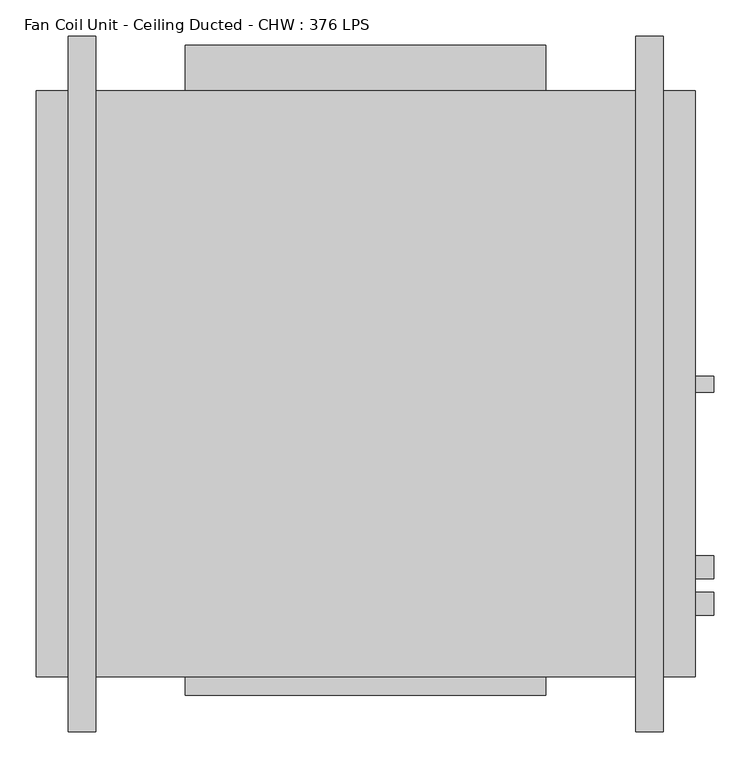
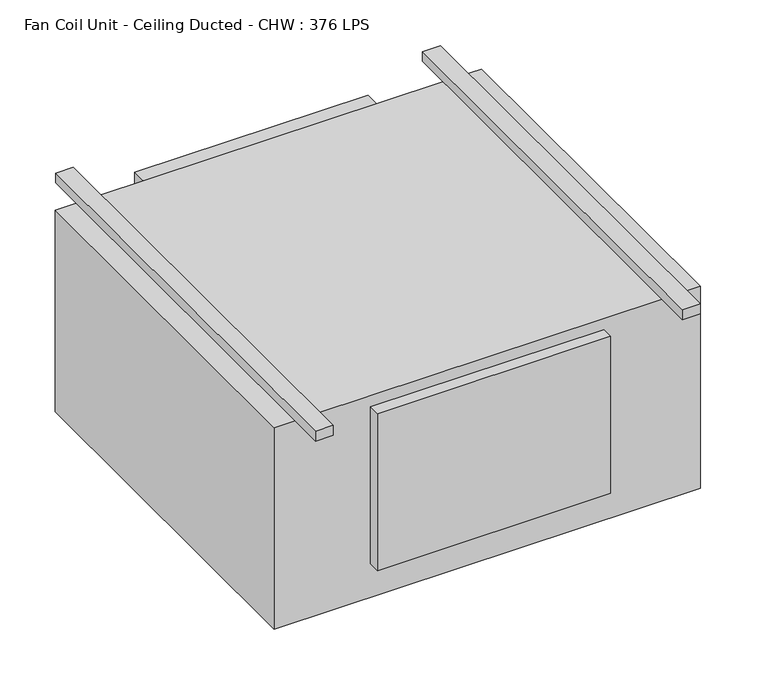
"""IFC4 building model written with IfcOpenShell, lengths in millimetres: proxy geometry, Fan Coil Unit - Ceiling Ducted - CHW : 376 LPS."""

from ifc_helpers import new_model, si_unit, frame, origin, place, context, project, spatial, circle_curve, source, transform, mapped, element, save
from ifc_brep_helpers import plane_surface, cylinder_surface, advanced_brep


def fan_coil_unit_ceiling_ducted_chw_376_lps_233c1d69(model_context):
    return source(origin(), model_context, "Body", "AdvancedBrep", [
        advanced_brep(
        [(82.55, 889.0, 479.425), (44.45, 889.0, 479.425), (44.45, -76.2, 479.425), (82.55, -76.2, 479.425), (82.55, -76.2, 457.2), (44.45, -76.2, 457.2), (44.45, 0.0, 457.2), (82.55, 0.0, 457.2), (44.45, 889.0, 457.2), (82.55, 889.0, 457.2), (82.55, 812.8, 457.2), (44.45, 812.8, 457.2), (869.95, 889.0, 479.425), (831.85, 889.0, 479.425), (831.85, -76.2, 479.425), (869.95, -76.2, 479.425), (869.95, -76.2, 457.2), (831.85, -76.2, 457.2), (831.85, 0.0, 457.2), (869.95, 0.0, 457.2), (831.85, 889.0, 457.2), (869.95, 889.0, 457.2), (869.95, 812.8, 457.2), (831.85, 812.8, 457.2), (939.8, 136.4, 381.0), (939.8, 168.4, 381.0), (914.4, 136.4, 381.0), (914.4, 168.4, 381.0), (939.8, 85.6, 101.6), (939.8, 117.6, 101.6), (914.4, 85.6, 101.6), (914.4, 117.6, 101.6), (939.8, 395.2875, 38.1), (939.8, 417.5125, 38.1), (914.4, 395.2875, 38.1), (914.4, 417.5125, 38.1), (0.0, 812.8, 457.2), (0.0, 0.0, 457.2), (914.4, 0.0, 457.2), (914.4, 812.8, 457.2), (914.4, 812.8, 0.0), (914.4, 0.0, 0.0), (0.0, 0.0, 0.0), (0.0, 812.8, 0.0), (707.2, 812.8, 431.8), (207.2, 812.8, 431.8), (207.2, 812.8, 76.2), (707.2, 812.8, 76.2), (207.2, 0.0, 431.8), (707.2, 0.0, 431.8), (707.2, 0.0, 76.2), (207.2, 0.0, 76.2), (707.2, 876.3, 431.8), (207.2, 876.3, 431.8), (707.2, 876.3, 76.2), (207.2, 876.3, 76.2), (207.2, -25.4, 431.8), (707.2, -25.4, 431.8), (707.2, -25.4, 76.2), (207.2, -25.4, 76.2)],
        [
            (0, 1),
            (1, 2),
            (2, 3),
            (3, 0),
            (4, 5),
            (5, 6),
            (6, 7),
            (7, 4),
            (8, 9),
            (9, 10),
            (10, 11),
            (11, 8),
            (0, 9),
            (8, 1),
            (11, 6),
            (5, 2),
            (4, 3),
            (7, 10),
            (12, 13),
            (13, 14),
            (14, 15),
            (15, 12),
            (16, 17),
            (17, 18),
            (18, 19),
            (19, 16),
            (20, 21),
            (21, 22),
            (22, 23),
            (23, 20),
            (12, 21),
            (20, 13),
            (23, 18),
            (17, 14),
            (16, 15),
            (19, 22),
            (24, 25, circle_curve(frame((939.8, 152.4, 381.0), z_axis=(1.0, 0.0, 0.0), x_axis=(0.0, 1.0, 0.0)), 16.0)),
            (25, 24, circle_curve(frame((939.8, 152.4, 381.0), z_axis=(1.0, 0.0, 0.0), x_axis=(0.0, 1.0, 0.0)), 16.0)),
            (24, 26),
            (26, 27, circle_curve(frame((914.4, 152.4, 381.0), z_axis=(1.0, 0.0, 0.0), x_axis=(0.0, 1.0, 0.0)), 16.0)),
            (27, 25),
            (27, 26, circle_curve(frame((914.4, 152.4, 381.0), z_axis=(1.0, 0.0, 0.0), x_axis=(0.0, 1.0, 0.0)), 16.0)),
            (28, 29, circle_curve(frame((939.8, 101.6, 101.6), z_axis=(1.0, 0.0, 0.0), x_axis=(0.0, 1.0, 0.0)), 16.0)),
            (29, 28, circle_curve(frame((939.8, 101.6, 101.6), z_axis=(1.0, 0.0, 0.0), x_axis=(0.0, 1.0, 0.0)), 16.0)),
            (28, 30),
            (30, 31, circle_curve(frame((914.4, 101.6, 101.6), z_axis=(1.0, 0.0, 0.0), x_axis=(0.0, 1.0, 0.0)), 16.0)),
            (31, 29),
            (31, 30, circle_curve(frame((914.4, 101.6, 101.6), z_axis=(1.0, 0.0, 0.0), x_axis=(0.0, 1.0, 0.0)), 16.0)),
            (32, 33, circle_curve(frame((939.8, 406.4, 38.1), z_axis=(1.0, 0.0, 0.0), x_axis=(0.0, 1.0, 0.0)), 11.1125)),
            (33, 32, circle_curve(frame((939.8, 406.4, 38.1), z_axis=(1.0, 0.0, 0.0), x_axis=(0.0, 1.0, 0.0)), 11.1125)),
            (32, 34),
            (34, 35, circle_curve(frame((914.4, 406.4, 38.1), z_axis=(1.0, 0.0, 0.0), x_axis=(0.0, 1.0, 0.0)), 11.1125)),
            (35, 33),
            (35, 34, circle_curve(frame((914.4, 406.4, 38.1), z_axis=(1.0, 0.0, 0.0), x_axis=(0.0, 1.0, 0.0)), 11.1125)),
            (36, 37),
            (37, 6),
            (11, 36),
            (38, 39),
            (39, 22),
            (19, 38),
            (23, 10),
            (7, 18),
            (40, 41),
            (41, 42),
            (42, 43),
            (43, 40),
            (43, 36),
            (39, 40),
            (44, 45),
            (45, 46),
            (46, 47),
            (47, 44),
            (42, 37),
            (41, 38),
            (48, 49),
            (49, 50),
            (50, 51),
            (51, 48),
            (52, 53),
            (53, 45),
            (44, 52),
            (54, 47),
            (46, 55),
            (55, 54),
            (52, 54),
            (55, 53),
            (48, 56),
            (56, 57),
            (57, 49),
            (50, 58),
            (58, 59),
            (59, 51),
            (59, 56),
            (58, 57),
        ],
        [
            plane_surface(frame((44.45, 889.0, 479.425), z_axis=(0.0, 0.0, 1.0), x_axis=(-1.0, 0.0, 0.0))),
            plane_surface(frame((44.45, 889.0, 457.2), z_axis=(0.0, 0.0, -1.0), x_axis=(1.0, 0.0, 0.0))),
            plane_surface(frame((82.55, 889.0, 479.425), z_axis=(0.0, 1.0, 0.0), x_axis=(0.0, 0.0, -1.0))),
            plane_surface(frame((44.45, 889.0, 479.425), z_axis=(-1.0, 0.0, 0.0), x_axis=(0.0, 0.0, -1.0))),
            plane_surface(frame((44.45, -76.2, 479.425), z_axis=(0.0, -1.0, 0.0), x_axis=(0.0, 0.0, -1.0))),
            plane_surface(frame((82.55, -76.2, 479.425), z_axis=(1.0, 0.0, 0.0), x_axis=(0.0, 0.0, -1.0))),
            plane_surface(frame((831.85, 889.0, 479.425), z_axis=(0.0, 0.0, 1.0), x_axis=(-1.0, 0.0, 0.0))),
            plane_surface(frame((831.85, 889.0, 457.2), z_axis=(0.0, 0.0, -1.0), x_axis=(1.0, 0.0, 0.0))),
            plane_surface(frame((869.95, 889.0, 479.425), z_axis=(0.0, 1.0, 0.0), x_axis=(0.0, 0.0, -1.0))),
            plane_surface(frame((831.85, 889.0, 479.425), z_axis=(-1.0, 0.0, 0.0), x_axis=(0.0, 0.0, -1.0))),
            plane_surface(frame((831.85, -76.2, 479.425), z_axis=(0.0, -1.0, 0.0), x_axis=(0.0, 0.0, -1.0))),
            plane_surface(frame((869.95, -76.2, 479.425), z_axis=(1.0, 0.0, 0.0), x_axis=(0.0, 0.0, -1.0))),
            plane_surface(frame((939.8, 168.4, 381.0), z_axis=(1.0, 0.0, 0.0), x_axis=(0.0, 0.0, 1.0))),
            cylinder_surface(frame((914.4, 152.4, 381.0), z_axis=(1.0, 0.0, 0.0), x_axis=(0.0, 1.0, 0.0)), 16.0),
            plane_surface(frame((939.8, 117.6, 101.6), z_axis=(1.0, 0.0, 0.0), x_axis=(0.0, 0.0, 1.0))),
            cylinder_surface(frame((914.4, 101.6, 101.6), z_axis=(1.0, 0.0, 0.0), x_axis=(0.0, 1.0, 0.0)), 16.0),
            plane_surface(frame((939.8, 417.5125, 38.1), z_axis=(1.0, 0.0, 0.0), x_axis=(0.0, 0.0, 1.0))),
            cylinder_surface(frame((914.4, 406.4, 38.1), z_axis=(1.0, 0.0, 0.0), x_axis=(0.0, 1.0, 0.0)), 11.1125),
            plane_surface(frame((0.0, 812.8, 457.2), z_axis=(0.0, 0.0, 1.0), x_axis=(-1.0, 0.0, 0.0))),
            plane_surface(frame((0.0, 812.8, 0.0), z_axis=(0.0, 0.0, -1.0), x_axis=(1.0, 0.0, 0.0))),
            plane_surface(frame((914.4, 812.8, 457.2), z_axis=(0.0, 1.0, 0.0), x_axis=(0.0, 0.0, -1.0))),
            plane_surface(frame((0.0, 812.8, 457.2), z_axis=(-1.0, 0.0, 0.0), x_axis=(0.0, 0.0, -1.0))),
            plane_surface(frame((0.0, 0.0, 457.2), z_axis=(0.0, -1.0, 0.0), x_axis=(0.0, 0.0, -1.0))),
            plane_surface(frame((914.4, 0.0, 457.2), z_axis=(1.0, 0.0, 0.0), x_axis=(0.0, 0.0, -1.0))),
            plane_surface(frame((207.2, 876.3, 431.8), z_axis=(0.0, 0.0, 1.0), x_axis=(-1.0, 0.0, 0.0))),
            plane_surface(frame((207.2, 876.3, 76.2), z_axis=(0.0, 0.0, -1.0), x_axis=(1.0, 0.0, 0.0))),
            plane_surface(frame((707.2, 876.3, 431.8), z_axis=(0.0, 1.0, 0.0), x_axis=(0.0, 0.0, -1.0))),
            plane_surface(frame((207.2, 876.3, 431.8), z_axis=(-1.0, 0.0, 0.0), x_axis=(0.0, 0.0, -1.0))),
            plane_surface(frame((707.2, 812.8, 431.8), z_axis=(1.0, 0.0, 0.0), x_axis=(0.0, 0.0, -1.0))),
            plane_surface(frame((207.2, 0.0, 431.8), z_axis=(0.0, 0.0, 1.0), x_axis=(-1.0, 0.0, 0.0))),
            plane_surface(frame((207.2, 0.0, 76.2), z_axis=(0.0, 0.0, -1.0), x_axis=(1.0, 0.0, 0.0))),
            plane_surface(frame((207.2, 0.0, 431.8), z_axis=(-1.0, 0.0, 0.0), x_axis=(0.0, 0.0, -1.0))),
            plane_surface(frame((207.2, -25.4, 431.8), z_axis=(0.0, -1.0, 0.0), x_axis=(0.0, 0.0, -1.0))),
            plane_surface(frame((707.2, -25.4, 431.8), z_axis=(1.0, 0.0, 0.0), x_axis=(0.0, 0.0, -1.0))),
        ],
        [
            (0, [[1, 2, 3, 4]]),
            (1, [[5, 6, 7, 8]]),
            (1, [[9, 10, 11, 12]]),
            (2, [[-1, 13, -9, 14]]),
            (3, [[-2, -14, -12, 15, -6, 16]]),
            (4, [[-3, -16, -5, 17]]),
            (5, [[-4, -17, -8, 18, -10, -13]]),
            (6, [[19, 20, 21, 22]]),
            (7, [[23, 24, 25, 26]]),
            (7, [[27, 28, 29, 30]]),
            (8, [[-19, 31, -27, 32]]),
            (9, [[-20, -32, -30, 33, -24, 34]]),
            (10, [[-21, -34, -23, 35]]),
            (11, [[-22, -35, -26, 36, -28, -31]]),
            (12, [[37, 38]]),
            (13, [[-37, 39, 40, 41]]),
            (13, [[-38, -41, 42, -39]]),
            (14, [[43, 44]]),
            (15, [[-43, 45, 46, 47]]),
            (15, [[-44, -47, 48, -45]]),
            (16, [[49, 50]]),
            (17, [[-49, 51, 52, 53]]),
            (17, [[-50, -53, 54, -51]]),
            (18, [[55, 56, -15, 57]]),
            (18, [[58, 59, -36, 60]]),
            (18, [[61, -18, 62, -33]]),
            (19, [[63, 64, 65, 66]]),
            (20, [[-66, 67, -57, -11, -61, -29, -59, 68], [69, 70, 71, 72]]),
            (21, [[-55, -67, -65, 73]]),
            (22, [[-64, 74, -60, -25, -62, -7, -56, -73], [75, 76, 77, 78]]),
            (23, [[-58, -74, -63, -68], [-40, -42], [-46, -48], [-52, -54]]),
            (24, [[79, 80, -69, 81]]),
            (25, [[82, -71, 83, 84]]),
            (26, [[-79, 85, -84, 86]]),
            (27, [[-80, -86, -83, -70]]),
            (28, [[-81, -72, -82, -85]]),
            (29, [[87, 88, 89, -75]]),
            (30, [[90, 91, 92, -77]]),
            (31, [[-87, -78, -92, 93]]),
            (32, [[-88, -93, -91, 94]]),
            (33, [[-89, -94, -90, -76]]),
        ],
    ),
    ])


if __name__ == "__main__":
    model = new_model("IFC4")
    model_context = context("Model", 3, world=origin())
    ifc_project = project(units=[si_unit("LENGTHUNIT", "METRE", prefix="MILLI")], contexts=[model_context])
    site = spatial("IfcSite", under=ifc_project)
    building = spatial("IfcBuilding", under=site)
    placement = place(None, origin())
    fan_coil_unit_ceiling_ducted_chw_376_lps_shape = fan_coil_unit_ceiling_ducted_chw_376_lps_233c1d69(model_context)
    element("IfcBuildingElementProxy", 1, Name="Fan Coil Unit - Ceiling Ducted - CHW : 376 LPS", ObjectType="Fan Coil Unit - Ceiling Ducted - CHW : 376 LPS", at=placement, inside=building, context=model_context, shape_type="MappedRepresentation", body=[
        mapped(fan_coil_unit_ceiling_ducted_chw_376_lps_shape, transform((0.0, 0.0, 0.0), x_axis=(1.0, 0.0, 0.0), y_axis=(0.0, 1.0, 0.0), z_axis=(0.0, 0.0, 1.0))),
    ])
    save(model, "model.ifc")
